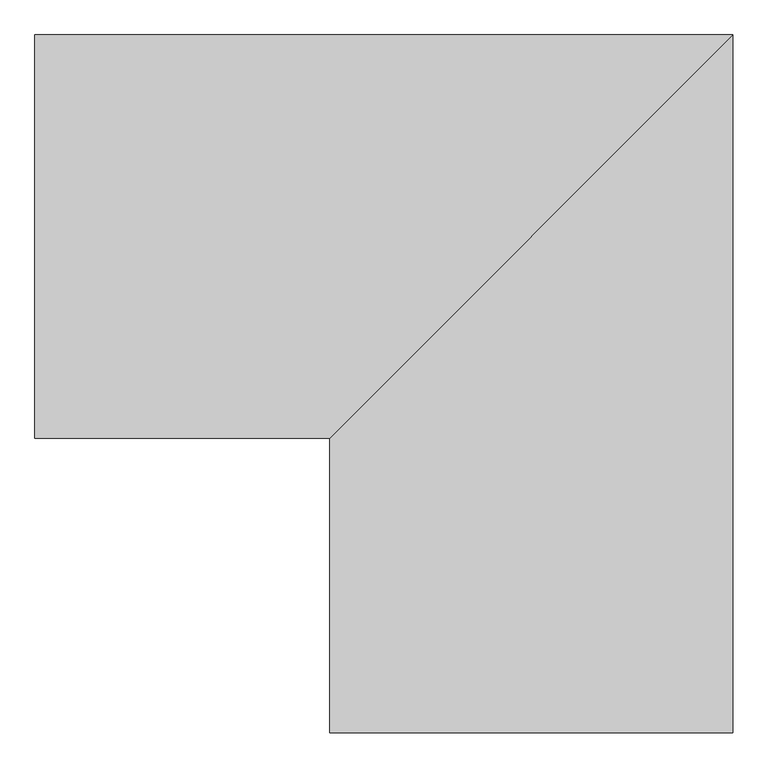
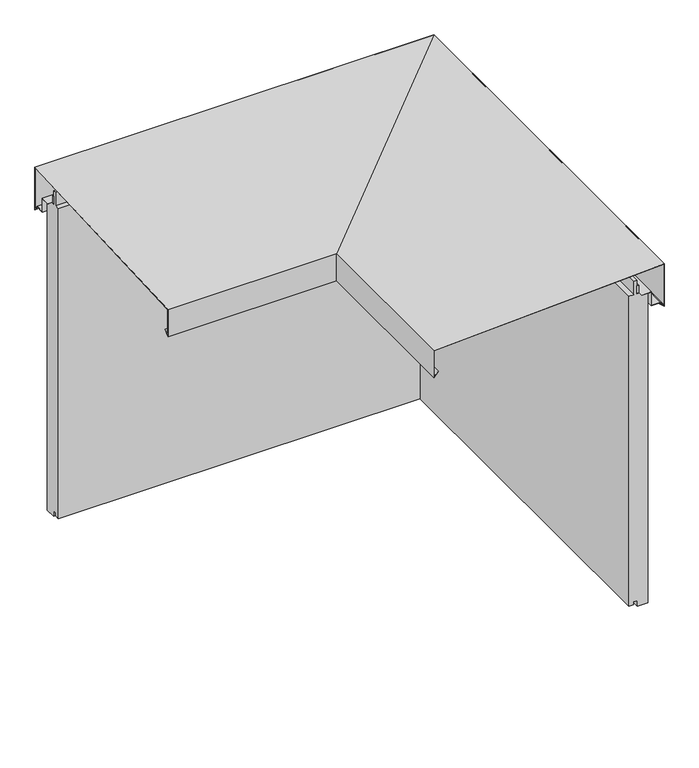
"""IFC4 building model written with IfcOpenShell, lengths in millimetres: plate geometry, Trimo_Qbiss Screen_L Corner Panel-HORIZONTAL : HR - B."""

from ifc_helpers import new_model, si_unit, frame, origin, place, context, project, spatial, polyline, outline, extrude, faceted_brep, source, transform, mapped, element, save


def plate_63cc7be1(model_context):
    return source(origin(), model_context, "Body", "SolidModel", [
        faceted_brep([(590.45, 134.2, 818.9715729), (590.45, 134.2, 934.1569759), (-456.25, 134.2, 934.1569759), (-456.25, 134.2, 818.9715729), (-12.95, -469.2, 905.4165497), (-456.25, -469.2, 905.4165497), (-12.95, -469.2, 833.1070922), (-456.25, -469.2, 833.1070922), (-1.3867532, -457.6367532, 844.670339), (-456.25, -457.6367532, 844.670339), (-0.8210678, -457.0710678, 844.1046536), (-456.25, -457.0710678, 844.1046536), (-13.75, -470.0, 831.1757214), (-456.25, -470.0, 831.1757214), (-13.75, -470.0, 906.1757214), (-456.25, -470.0, 906.1757214), (591.25, 135.0, 935.0), (-456.25, 135.0, 935.0), (591.25, 135.0, 817.040202), (-456.25, 135.0, 817.040202), (579.270101, 123.020101, 829.020101), (-456.25, 123.020101, 829.020101), (579.8357864, 123.5857864, 829.5857864), (-456.25, 123.5857864, 829.5857864), (590.45, -912.5, 818.9715729), (590.45, -912.5, 934.1569759), (-12.95, -912.5, 905.4165497), (-12.95, -912.5, 833.1070922), (-1.3867532, -912.5, 844.670339), (-0.8210678, -912.5, 844.1046536), (-13.75, -912.5, 831.1757214), (-13.75, -912.5, 906.1757214), (591.25, -912.5, 935.0), (591.25, -912.5, 817.040202), (579.270101, -912.5, 829.020101), (579.8357864, -912.5, 829.5857864)], [[[0, 1, 2, 3]], [[1, 4, 5, 2]], [[4, 6, 7, 5]], [[6, 8, 9, 7]], [[8, 10, 11, 9]], [[10, 12, 13, 11]], [[12, 14, 15, 13]], [[14, 16, 17, 15]], [[16, 18, 19, 17]], [[18, 20, 21, 19]], [[20, 22, 23, 21]], [[22, 0, 3, 23]], [[1, 0, 24, 25]], [[4, 1, 25, 26]], [[6, 4, 26, 27]], [[8, 6, 27, 28]], [[10, 8, 28, 29]], [[12, 10, 29, 30]], [[14, 12, 30, 31]], [[16, 14, 31, 32]], [[18, 16, 32, 33]], [[20, 18, 33, 34]], [[22, 20, 34, 35]], [[0, 22, 35, 24]], [[3, 2, 5, 7, 9, 11, 13, 15, 17, 19, 21, 23]], [[25, 24, 35, 34, 33, 32, 31, 30, 29, 28, 27, 26]]]),
        faceted_brep([(589.45, 133.2, 823.9313708), (589.45, 133.2, 822.8), (-456.25, 133.2, 822.8), (-456.25, 133.2, 823.9313708), (581.25, 125.0, 831.0), (-456.25, 125.0, 831.0), (581.25, -912.5, 831.0), (557.25, -912.5, 831.0), (557.25, 101.0, 831.0), (-456.25, 101.0, 831.0), (557.25, 101.0, 868.0), (-456.25, 101.0, 868.0), (557.25, -912.5, 868.0), (533.25, -912.5, 868.0), (533.25, 77.0, 868.0), (-456.25, 77.0, 868.0), (533.25, 77.0, 868.8), (-456.25, 77.0, 868.8), (533.25, -912.5, 868.8), (558.05, -912.5, 868.8), (558.05, 101.8, 868.8), (-456.25, 101.8, 868.8), (558.05, 101.8, 831.8), (-456.25, 101.8, 831.8), (558.05, -912.5, 831.8), (581.5813708, -912.5, 831.8), (581.5813708, 125.3313708, 831.8), (-456.25, 125.3313708, 831.8), (589.45, -912.5, 823.9313708), (589.45, -912.5, 822.8)], [[[0, 1, 2, 3]], [[1, 4, 5, 2]], [[5, 4, 6, 7, 8, 9]], [[8, 10, 11, 9]], [[11, 10, 12, 13, 14, 15]], [[14, 16, 17, 15]], [[17, 16, 18, 19, 20, 21]], [[20, 22, 23, 21]], [[23, 22, 24, 25, 26, 27]], [[26, 0, 3, 27]], [[1, 0, 28, 29]], [[4, 1, 29, 6]], [[10, 8, 7, 12]], [[16, 14, 13, 18]], [[22, 20, 19, 24]], [[0, 26, 25, 28]], [[3, 2, 5, 9, 11, 15, 17, 21, 23, 27]], [[7, 6, 29, 28, 25, 24, 19, 18, 13, 12]]]),
        extrude(outline(polyline([(-443.75, 71.0), (-443.75, 76.0), (532.25, 76.0), (532.25, -900.0), (527.25, -900.0), (527.25, 71.0), (-443.75, 71.0)])), frame((0.0, 0.0, 868.0), z_axis=(0.0, 0.0, 1.0), x_axis=(1.0, 0.0, 0.0)), (0.0, 0.0, 1.0), 21.0),
        faceted_brep([(-443.75, 71.0, 867.0), (-443.75, 100.0, 867.0), (-443.75, 100.0, 0.0), (-443.75, 72.0, 0.0), (-443.75, 72.0, 15.5), (-443.75, 62.0, 15.5), (-443.75, 62.0, 7.0), (-443.75, 50.0, 7.0), (-443.75, 50.0, 867.0), (-443.75, 63.0, 867.0), (-443.75, 63.0, 904.5), (-443.75, 71.0, 904.5), (527.25, 71.0, 867.0), (527.25, -900.0, 867.0), (556.25, -900.0, 867.0), (556.25, 100.0, 867.0), (556.25, 100.0, 0.0), (556.25, -900.0, 0.0), (528.25, -900.0, 0.0), (528.25, 72.0, 0.0), (528.25, 72.0, 15.5), (528.25, -900.0, 15.5), (518.25, -900.0, 15.5), (518.25, 62.0, 15.5), (518.25, 62.0, 7.0), (518.25, -900.0, 7.0), (506.25, -900.0, 7.0), (506.25, 50.0, 7.0), (506.25, 50.0, 867.0), (506.25, -900.0, 867.0), (519.25, -900.0, 867.0), (519.25, 63.0, 867.0), (519.25, 63.0, 904.5), (519.25, -900.0, 904.5), (527.25, -900.0, 904.5), (527.25, 71.0, 904.5)], [[[0, 1, 2, 3, 4, 5, 6, 7, 8, 9, 10, 11]], [[1, 0, 12, 13, 14, 15]], [[2, 1, 15, 16]], [[3, 2, 16, 17, 18, 19]], [[4, 3, 19, 20]], [[5, 4, 20, 21, 22, 23]], [[6, 5, 23, 24]], [[7, 6, 24, 25, 26, 27]], [[8, 7, 27, 28]], [[9, 8, 28, 29, 30, 31]], [[10, 9, 31, 32]], [[11, 10, 32, 33, 34, 35]], [[0, 11, 35, 12]], [[13, 34, 33, 30, 29, 26, 25, 22, 21, 18, 17, 14]], [[16, 15, 14, 17]], [[20, 19, 18, 21]], [[24, 23, 22, 25]], [[28, 27, 26, 29]], [[32, 31, 30, 33]], [[12, 35, 34, 13]]]),
    ])


if __name__ == "__main__":
    model = new_model("IFC4")
    model_context = context("Model", 3, world=origin())
    ifc_project = project(units=[si_unit("LENGTHUNIT", "METRE", prefix="MILLI")], contexts=[model_context])
    site = spatial("IfcSite", under=ifc_project)
    building = spatial("IfcBuilding", under=site)
    placement = place(None, origin())
    plate_shape = plate_63cc7be1(model_context)
    element("IfcPlate", 1, ObjectType="Trimo_Qbiss Screen_L Corner Panel-HORIZONTAL : HR - B", at=placement, inside=building, context=model_context, shape_type="MappedRepresentation", body=[
        mapped(plate_shape, transform((0.0, 0.0, 0.0), x_axis=(1.0, 0.0, 0.0), y_axis=(0.0, 1.0, 0.0), z_axis=(0.0, 0.0, 1.0))),
    ])
    save(model, "model.ifc")
